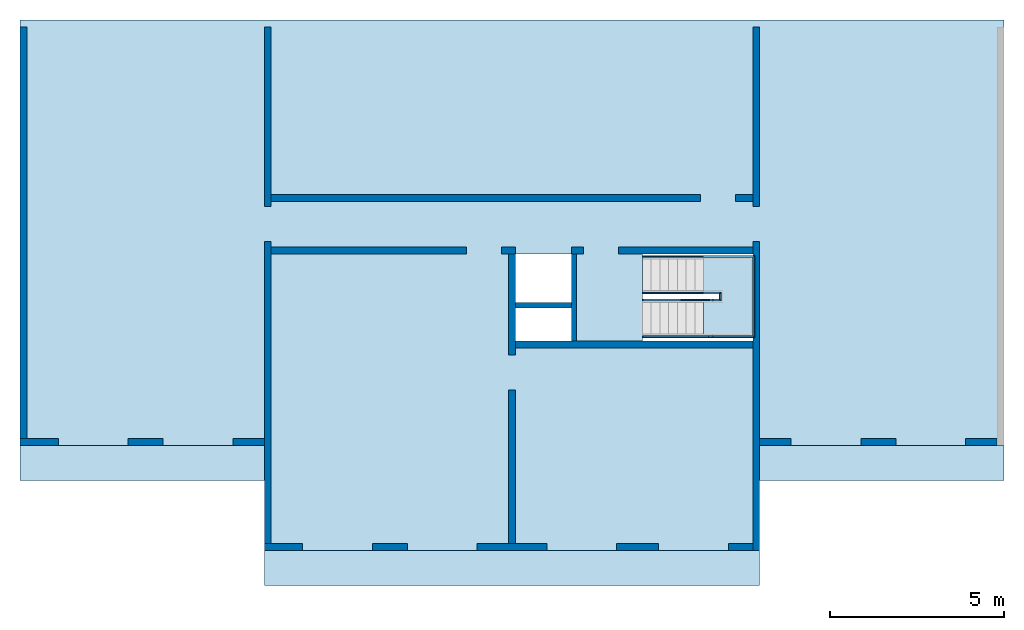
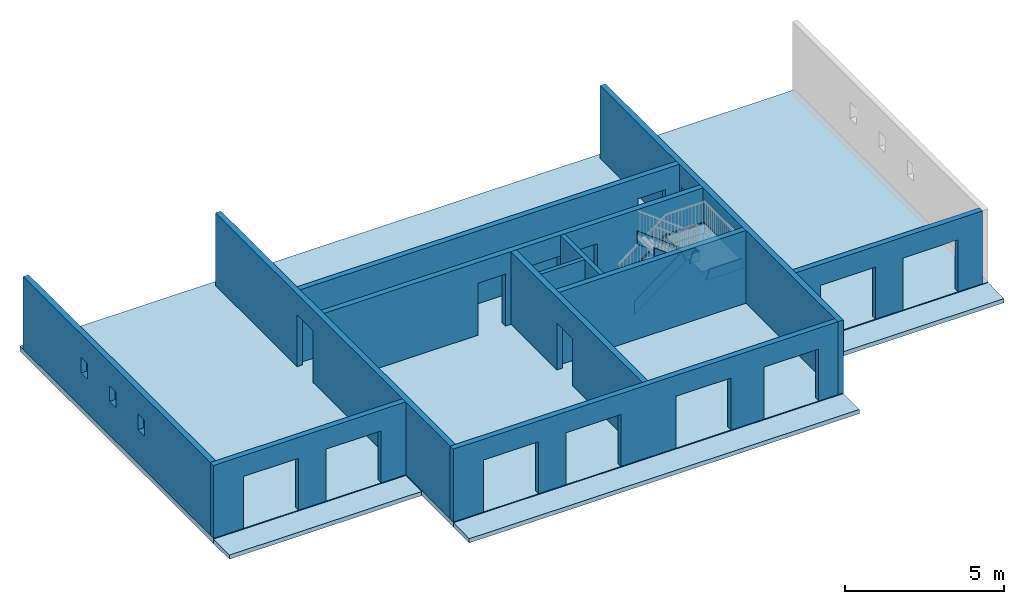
# One storey, part 1 of 3: 12 walls, 10 members, 3 slabs, 21 openings, 1 element without a shape of its own.
"""IFC2X3 building model written with IfcOpenShell, lengths in metres."""

from ifc_helpers import new_model, entity, si_unit, converted_unit, derived_unit, direction, frame, frame_2d, origin, origin_2d_with_axis, place, context, subcontext, project, spatial, polyline, rectangle, outline, extrude, faceted_brep, material, layer, layer_set, layer_usage, type_object, element, aggregate, save


model = new_model("IFC2X3")

# Units and contexts
model_context = context("Model", 3, precision=1e-05, world=origin(), true_north=direction((6.12303176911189e-17, 1.0)))
body_context = subcontext(model_context, "Body", "Model", "MODEL_VIEW")
ifc_project = project(units=[si_unit("LENGTHUNIT", "METRE"), si_unit("AREAUNIT", "SQUARE_METRE"), si_unit("VOLUMEUNIT", "CUBIC_METRE"), converted_unit("PLANEANGLEUNIT", "DEGREE", entity("IfcRatioMeasure", 0.0174532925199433), si_unit("PLANEANGLEUNIT", "RADIAN"), dimensions=[0, 0, 0, 0, 0, 0, 0]), si_unit("MASSUNIT", "GRAM", prefix="KILO"), derived_unit("MASSDENSITYUNIT", [(si_unit("MASSUNIT", "GRAM", prefix="KILO"), 1), (si_unit("LENGTHUNIT", "METRE"), -3)]), si_unit("TIMEUNIT", "SECOND"), si_unit("FREQUENCYUNIT", "HERTZ"), si_unit("THERMODYNAMICTEMPERATUREUNIT", "DEGREE_CELSIUS"), derived_unit("THERMALTRANSMITTANCEUNIT", [(si_unit("MASSUNIT", "GRAM", prefix="KILO"), 1), (si_unit("THERMODYNAMICTEMPERATUREUNIT", "KELVIN"), -1), (si_unit("TIMEUNIT", "SECOND"), -3)]), derived_unit("VOLUMETRICFLOWRATEUNIT", [(si_unit("LENGTHUNIT", "METRE"), 3), (si_unit("TIMEUNIT", "SECOND"), -1)]), si_unit("ELECTRICCURRENTUNIT", "AMPERE"), si_unit("ELECTRICVOLTAGEUNIT", "VOLT"), si_unit("POWERUNIT", "WATT"), si_unit("FORCEUNIT", "NEWTON"), si_unit("ILLUMINANCEUNIT", "LUX"), si_unit("LUMINOUSFLUXUNIT", "LUMEN"), si_unit("LUMINOUSINTENSITYUNIT", "CANDELA"), derived_unit("USERDEFINED", [(si_unit("MASSUNIT", "GRAM", prefix="KILO"), -1), (si_unit("LENGTHUNIT", "METRE"), -2), (si_unit("TIMEUNIT", "SECOND"), 3), (si_unit("LUMINOUSFLUXUNIT", "LUMEN"), 1)]), derived_unit("LINEARVELOCITYUNIT", [(si_unit("LENGTHUNIT", "METRE"), 1), (si_unit("TIMEUNIT", "SECOND"), -1)]), si_unit("PRESSUREUNIT", "PASCAL"), derived_unit("USERDEFINED", [(si_unit("LENGTHUNIT", "METRE"), -2), (si_unit("MASSUNIT", "GRAM", prefix="KILO"), 1), (si_unit("TIMEUNIT", "SECOND"), -2)])], contexts=[model_context])

# Site, building, storey
site_placement = place(None, origin())
site = spatial("IfcSite", under=ifc_project, at=site_placement, Name="Default", CompositionType="ELEMENT")
building_placement = place(site_placement, origin())
building = spatial("IfcBuilding", under=site, at=building_placement, CompositionType="ELEMENT")
storey_placement = place(building_placement, frame((0.0, 0.0, 6.0)))
storey = spatial("IfcBuildingStorey", under=building, at=storey_placement, Name="R+2", CompositionType="ELEMENT", Elevation=5.99999999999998)

# Stair, members
stair_placement = place(storey_placement, origin())
stair = element("IfcStair", 1, at=stair_placement, inside=storey, Name="Escalier assemblé:Escalier", ObjectType="Escalier assemblé:Contremarche 190 mm max marche 250\xa0mm", ShapeType="NOTDEFINED")
member_type = type_object("IfcMemberType", Name="Limon à la française:Limon à la française - 50 mm de largeur", PredefinedType="STRINGER")
member_1_placement = place(stair_placement, origin())
member_1 = element("IfcMember", 2, at=member_1_placement, type_object=member_type, Name="Escalier assemblé:Escalier:468124 Stringer 1", ObjectType="Escalier assemblé:Contremarche 190 mm max marche 250\xa0mm", context=body_context, shape_type="SweptSolid", body=[
    extrude(outline(polyline([(-0.973212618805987, -0.2), (1.19067644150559, -0.2), (1.0569252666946, 0.2), (-1.27438908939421, 0.2), (-0.973212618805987, -0.2)])), frame((6.43043564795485, 2.2618101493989, 0.853112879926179), z_axis=(0.0, 1.0, 0.0), x_axis=(0.798870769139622, 0.0, 0.601502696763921)), (0.0, 0.0, 1.0), 0.05),
])
member_2_placement = place(stair_placement, origin())
member_2 = element("IfcMember", 3, at=member_2_placement, type_object=member_type, Name="Escalier assemblé:Escalier:468124 Stringer 2", ObjectType="Escalier assemblé:Contremarche 190 mm max marche 250\xa0mm", context=body_context, shape_type="SweptSolid", body=[
    extrude(outline(polyline([(-0.973212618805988, -0.2), (1.19067644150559, -0.2), (1.05692526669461, 0.2), (-1.27438908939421, 0.2), (-0.973212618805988, -0.2)])), frame((6.43043564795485, 1.2118101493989, 0.853112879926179), z_axis=(0.0, 1.0, 0.0), x_axis=(0.798870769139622, 0.0, 0.601502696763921)), (0.0, 0.0, 1.0), 0.0500000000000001),
])
member_3_placement = place(stair_placement, origin())
member_3 = element("IfcMember", 4, at=member_3_placement, type_object=member_type, Name="Escalier assemblé:Escalier:468124 Stringer 3", ObjectType="Escalier assemblé:Contremarche 190 mm max marche 250\xa0mm", context=body_context, shape_type="SweptSolid", body=[
    extrude(outline(polyline([(-1.2901377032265, -0.199999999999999), (1.0726738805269, -0.2), (1.37385035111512, 0.200000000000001), (-1.15638652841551, 0.200000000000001), (-1.2901377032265, -0.199999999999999)])), frame((6.50989234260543, -0.0381898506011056, 2.26487758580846), z_axis=(0.0, 1.0, 0.0), x_axis=(-0.798870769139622, 0.0, 0.601502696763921)), (0.0, 0.0, 1.0), 0.05),
])
member_4_placement = place(stair_placement, origin())
member_4 = element("IfcMember", 5, at=member_4_placement, type_object=member_type, Name="Escalier assemblé:Escalier:468124 Stringer 4", ObjectType="Escalier assemblé:Contremarche 190 mm max marche 250\xa0mm", context=body_context, shape_type="SweptSolid", body=[
    extrude(outline(polyline([(-1.2901377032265, -0.2), (1.0726738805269, -0.200000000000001), (1.37385035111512, 0.2), (-1.15638652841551, 0.2), (-1.2901377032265, -0.2)])), frame((6.50989234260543, 1.01181014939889, 2.26487758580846), z_axis=(0.0, 1.0, 0.0), x_axis=(-0.798870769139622, 0.0, 0.601502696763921)), (0.0, 0.0, 1.0), 0.05),
])
member_5_placement = place(stair_placement, frame((7.42024510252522, -0.0381898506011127, 1.32908212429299)))
member_5 = element("IfcMember", 6, at=member_5_placement, type_object=member_type, Name="Escalier assemblé:Escalier:468124 Stringer 5", ObjectType="Escalier assemblé:Contremarche 190 mm max marche 250\xa0mm", context=body_context, shape_type="Brep", body=[
    faceted_brep([(0.133751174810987, 0.0500000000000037, 0.4), (0.133751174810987, 0.0, 0.4), (1.32241889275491, 0.0, 0.4), (1.27241889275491, 0.0500000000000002, 0.4), (0.0, 0.0500000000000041, 0.0), (1.27241889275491, 0.0500000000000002, 0.0), (0.0, 0.0, 0.0), (1.32241889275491, 0.0, 0.0)], [[[0, 1, 2, 3]], [[4, 0, 3, 5]], [[6, 4, 5, 7]], [[1, 6, 7, 2]], [[1, 0, 4, 6]], [[2, 7, 5, 3]]]),
])
member_6_placement = place(stair_placement, origin())
member_6 = element("IfcMember", 7, at=member_6_placement, type_object=member_type, Name="Escalier assemblé:Escalier:468124 Stringer 6", ObjectType="Escalier assemblé:Contremarche 190 mm max marche 250\xa0mm", context=body_context, shape_type="SweptSolid", body=[
    extrude(outline(polyline([(-1.17500000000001, -0.0249999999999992), (1.17500000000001, -0.0249999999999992), (1.125, 0.0250000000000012), (-1.125, 0.0250000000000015), (-1.17500000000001, -0.0249999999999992)])), frame((8.71766399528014, 1.13681014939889, 1.32908212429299), z_axis=(0.0, 0.0, 1.0), x_axis=(0.0, 1.0, 0.0)), (0.0, 0.0, 1.0), 0.4),
])
member_7_placement = place(stair_placement, frame((7.26133171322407, 2.2618101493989, 1.32908212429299)))
member_7 = element("IfcMember", 8, at=member_7_placement, type_object=member_type, Name="Escalier assemblé:Escalier:468124 Stringer 7", ObjectType="Escalier assemblé:Contremarche 190 mm max marche 250\xa0mm", context=body_context, shape_type="Brep", body=[
    faceted_brep([(1.43133228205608, 0.0, 0.4), (1.48133228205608, 0.0499999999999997, 0.4), (0.0, 0.0500000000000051, 0.4), (0.0, 0.0, 0.4), (1.43133228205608, 0.0, 0.0), (0.133751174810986, 0.0, 0.0), (1.48133228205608, 0.0499999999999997, 0.0), (0.133751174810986, 0.0500000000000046, 0.0)], [[[0, 1, 2, 3]], [[4, 0, 3, 5]], [[6, 4, 5, 7]], [[1, 6, 7, 2]], [[1, 0, 4, 6]], [[2, 7, 5, 3]]]),
])
member_8_placement = place(stair_placement, frame((7.26133171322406, 1.2118101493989, 1.32908212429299)))
member_8 = element("IfcMember", 9, at=member_8_placement, type_object=member_type, Name="Escalier assemblé:Escalier:468124 Stringer 8", ObjectType="Escalier assemblé:Contremarche 190 mm max marche 250\xa0mm", context=body_context, shape_type="Brep", body=[
    faceted_brep([(0.0, 0.0500000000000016, 0.4), (0.0, 0.0, 0.4), (0.471332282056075, 0.0, 0.4), (0.521332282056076, 0.0499999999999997, 0.4), (0.133751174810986, 0.0500000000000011, 0.0), (0.521332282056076, 0.0499999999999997, 0.0), (0.133751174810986, 0.0, 0.0), (0.471332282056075, 0.0, 0.0)], [[[0, 1, 2, 3]], [[4, 0, 3, 5]], [[6, 4, 5, 7]], [[1, 6, 7, 2]], [[1, 0, 4, 6]], [[2, 7, 5, 3]]]),
])
member_9_placement = place(stair_placement, origin())
member_9 = element("IfcMember", 10, at=member_9_placement, type_object=member_type, Name="Escalier assemblé:Escalier:468124 Stringer 9", ObjectType="Escalier assemblé:Contremarche 190 mm max marche 250\xa0mm", context=body_context, shape_type="SweptSolid", body=[
    extrude(outline(polyline([(-0.0750000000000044, -0.0250000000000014), (0.0750000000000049, -0.0250000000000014), (0.125000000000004, 0.0249999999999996), (-0.125000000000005, 0.0249999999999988), (-0.0750000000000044, -0.0250000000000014)])), frame((7.75766399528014, 1.13681014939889, 1.32908212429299), z_axis=(0.0, 0.0, 1.0), x_axis=(0.0, -1.0, 0.0)), (0.0, 0.0, 1.0), 0.4),
])
member_10_placement = place(stair_placement, frame((7.42024510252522, 1.01181014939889, 1.32908212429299)))
member_10 = element("IfcMember", 11, at=member_10_placement, type_object=member_type, Name="Escalier assemblé:Escalier:468124 Stringer 10", ObjectType="Escalier assemblé:Contremarche 190 mm max marche 250\xa0mm", context=body_context, shape_type="Brep", body=[
    faceted_brep([(0.362418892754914, 0.0, 0.4), (0.312418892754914, 0.0500000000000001, 0.4), (0.133751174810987, 0.0500000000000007, 0.4), (0.133751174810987, 0.0, 0.4), (0.362418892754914, 0.0, 0.0), (0.0, 0.0, 0.0), (0.312418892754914, 0.0500000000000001, 0.0), (0.0, 0.0500000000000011, 0.0)], [[[0, 1, 2, 3]], [[4, 0, 3, 5]], [[6, 4, 5, 7]], [[1, 6, 7, 2]], [[1, 0, 4, 6]], [[2, 7, 5, 3]]]),
])

# Slab, openings
ifc_material_1 = material(Name="Béton - Coulé sur place - Béton20")
ifc_layer_1 = layer(ifc_material_1, 0.2)
ifc_layer_set_1 = layer_set([ifc_layer_1], Name="Sol:Dalle pleine 200 mm")
ifc_layer_usage_1 = layer_usage(ifc_layer_set_1, "AXIS3", "POSITIVE", 0.0)
slab_1_placement = place(storey_placement, frame((-12.3073360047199, -6.13818985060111, 0.0)))
slab_1 = element("IfcSlab", 12, at=slab_1_placement, inside=storey, material=ifc_layer_usage_1, Name="Sol:Dalle pleine 200 mm", ObjectType="Sol:Dalle pleine 200 mm", PredefinedType="FLOOR", context=body_context, shape_type="SweptSolid", body=[
    extrude(outline(polyline([(-14.1, 7.59999999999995), (-14.1, -4.60000000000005), (-7.1, -4.60000000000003), (-7.09999999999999, -7.60000000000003), (7.10000000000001, -7.59999999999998), (7.10000000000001, -4.59999999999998), (14.1, -4.59999999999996), (14.1, 7.60000000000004), (-14.1, 7.59999999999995)])), frame((14.1, 7.60000000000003, 0.2), z_axis=(0.0, 0.0, -1.0), x_axis=(-1.0, 0.0, 0.0)), (0.0, 0.0, 1.0), 0.2),
])
opening_1_placement = place(slab_1_placement, frame((15.0, 7.80000000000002, 0.2)))
element("IfcOpeningElement", 13, at=opening_1_placement, cuts=slab_1, Name="Sol:Dalle pleine 200 mm:2", ObjectType="Opening", context=body_context, shape_type="SweptSolid", body=[
    extrude(rectangle(XDim=1.4, YDim=1.6, at=origin_2d_with_axis()), frame((0.0, 0.0, 0.0), z_axis=(0.0, 0.0, -1.0), x_axis=(0.0, -1.0, 0.0)), (0.0, 0.0, 1.0), 0.2),
])
opening_2_placement = place(slab_1_placement, frame((15.0, 6.47500000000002, 0.2)))
element("IfcOpeningElement", 14, at=opening_2_placement, cuts=slab_1, Name="Sol:Dalle pleine 200 mm:3", ObjectType="Opening", context=body_context, shape_type="SweptSolid", body=[
    extrude(rectangle(XDim=0.95, YDim=1.6, at=origin_2d_with_axis()), frame((0.0, 0.0, 0.0), z_axis=(0.0, 0.0, -1.0), x_axis=(0.0, -1.0, 0.0)), (0.0, 0.0, 1.0), 0.2),
])
opening_3_placement = place(slab_1_placement, frame((19.42, 7.25, 0.2)))
element("IfcOpeningElement", 15, at=opening_3_placement, cuts=slab_1, Name="Sol:Dalle pleine 200 mm:4", ObjectType="Opening", context=body_context, shape_type="SweptSolid", body=[
    extrude(rectangle(XDim=3.16, YDim=2.49999999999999, at=origin_2d_with_axis()), frame((0.0, 0.0, 0.0), z_axis=(0.0, 0.0, -1.0), x_axis=(1.0, 0.0, 0.0)), (0.0, 0.0, 1.0), 0.2),
])

# Slab
ifc_layer_2 = layer(ifc_material_1, 0.16)
ifc_layer_set_2 = layer_set([ifc_layer_2], Name="Sol:Balcon 160 mm")
ifc_layer_usage_2 = layer_usage(ifc_layer_set_2, "AXIS3", "POSITIVE", 0.0)
slab_2_placement = place(storey_placement, origin())
element("IfcSlab", 16, at=slab_2_placement, inside=storey, material=ifc_layer_usage_2, Name="Sol:Balcon 160 mm", ObjectType="Sol:Balcon 160 mm", PredefinedType="FLOOR", context=body_context, shape_type="SweptSolid", body=[
    extrude(outline(polyline([(-0.0825000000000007, -0.5), (0.0874999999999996, -0.5), (0.0774999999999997, 0.5), (-0.0825000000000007, 0.5), (-0.0825000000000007, -0.5)])), frame((8.89266399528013, -3.63818985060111, 0.0825000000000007), z_axis=(1.0, 0.0, 0.0), x_axis=(0.0, 0.0, 1.0)), (0.0, 0.0, 1.0), 7.0),
    extrude(outline(polyline([(-0.0825000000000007, -0.5), (0.0874999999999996, -0.5), (0.0774999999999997, 0.5), (-0.0825000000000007, 0.5), (-0.0825000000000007, -0.5)])), frame((-12.3073360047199, -3.63818985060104, 0.0825000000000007), z_axis=(1.0, 0.0, 0.0), x_axis=(0.0, 0.0, 1.0)), (0.0, 0.0, 1.0), 7.0),
    extrude(outline(polyline([(-0.0825000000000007, -0.5), (0.0874999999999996, -0.5), (0.0774999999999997, 0.5), (-0.0825000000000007, 0.5), (-0.0825000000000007, -0.5)])), frame((-5.30733600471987, -6.63818985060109, 0.0825000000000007), z_axis=(1.0, 0.0, 0.0), x_axis=(0.0, 0.0, 1.0)), (0.0, 0.0, 1.0), 14.2),
])

slab_3_placement = place(stair_placement, origin())
slab_3 = element("IfcSlab", 17, at=slab_3_placement, Name="Escalier assemblé:Escalier:468124 Landing 1", ObjectType="Escalier assemblé:Contremarche 190 mm max marche 250\xa0mm", PredefinedType="LANDING", context=body_context, shape_type="SweptSolid", body=[
    extrude(outline(polyline([(-1.125, -0.477500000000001), (-0.125000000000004, -0.477500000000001), (-0.125000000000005, 0.0225000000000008), (0.125000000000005, 0.0225000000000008), (0.125000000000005, -0.477499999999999), (1.12500000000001, -0.477499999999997), (1.125, 0.932500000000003), (-1.12500000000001, 0.932500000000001), (-1.125, -0.477500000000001)])), frame((7.76016399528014, 1.1368101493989, 1.63235294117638), z_axis=(0.0, 0.0, 1.0), x_axis=(0.0, -1.0, 0.0)), (0.0, 0.0, 1.0), 0.0499999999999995),
])

aggregate(stair, [slab_3, member_1, member_2, member_3, member_4, member_5, member_6, member_7, member_8, member_9, member_10])

# Wall, openings
ifc_layer_3 = layer(ifc_material_1, 0.2)
ifc_layer_set_3 = layer_set([ifc_layer_3], Name="Mur de base:Générique - 200 mm")
ifc_layer_usage_3 = layer_usage(ifc_layer_set_3, "AXIS2", "NEGATIVE", 0.1)
wall_type_1 = type_object("IfcWallType", Name="Mur de base:Générique - 200 mm", PredefinedType="STANDARD", material=ifc_layer_set_3)
wall_1_placement = place(storey_placement, frame((15.6926639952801, -3.03818985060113, 0.200000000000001), z_axis=(0.0, 0.0, 1.0), x_axis=(-1.0, 0.0, 0.0)))
wall_1 = element("IfcWallStandardCase", 18, at=wall_1_placement, inside=storey, type_object=wall_type_1, material=ifc_layer_usage_3, Name="Mur de base:Générique - 200 mm", ObjectType="Mur de base:Générique - 200 mm:1044", context=body_context, shape_type="SweptSolid", body=[
    extrude(rectangle(XDim=6.8, YDim=0.2, at=frame_2d((3.4, 2.22044604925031e-16), x_axis=(-1.0, 0.0))), origin(), (0.0, 0.0, 1.0), 2.80000000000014),
])
opening_4_placement = place(wall_1_placement, frame((15.6926639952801, -3.03818985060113, -0.200000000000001), z_axis=(0.0, 0.0, 1.0), x_axis=(-1.0, 0.0, 0.0)))
element("IfcOpeningElement", 19, at=opening_4_placement, cuts=wall_1, Name="Mur de base:Générique - 200 mm", ObjectType="Opening", context=body_context, shape_type="SweptSolid", body=[
    extrude(rectangle(XDim=2.0, YDim=2.0, at=frame_2d((0.0, 0.0), x_axis=(0.0, 1.0))), frame((10.7926639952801, -1.41418985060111, 1.2), z_axis=(0.0, -1.0, 0.0), x_axis=(-1.0, 0.0, 0.0)), (0.0, 0.0, 1.0), 3.048),
])
opening_5_placement = place(wall_1_placement, frame((15.6926639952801, -3.03818985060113, -0.200000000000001), z_axis=(0.0, 0.0, 1.0), x_axis=(-1.0, 0.0, 0.0)))
element("IfcOpeningElement", 20, at=opening_5_placement, cuts=wall_1, Name="Mur de base:Générique - 200 mm", ObjectType="Opening", context=body_context, shape_type="SweptSolid", body=[
    extrude(rectangle(XDim=2.0, YDim=2.0, at=frame_2d((0.0, 0.0), x_axis=(0.0, 1.0))), frame((13.7926639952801, -1.41418985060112, 1.2), z_axis=(0.0, -1.0, 0.0), x_axis=(-1.0, 0.0, 0.0)), (0.0, 0.0, 1.0), 3.048),
])

# Wall, opening
ifc_layer_usage_4 = layer_usage(ifc_layer_set_3, "AXIS2", "NEGATIVE", 0.1)
wall_2_placement = place(storey_placement, frame((8.79266399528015, 8.86181014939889, 0.200000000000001), z_axis=(0.0, 0.0, 1.0), x_axis=(0.0, -1.0, 0.0)))
wall_2 = element("IfcWallStandardCase", 21, at=wall_2_placement, inside=storey, type_object=wall_type_1, material=ifc_layer_usage_4, Name="Mur de base:Générique - 200 mm", ObjectType="Mur de base:Générique - 200 mm:1044", context=body_context, shape_type="SweptSolid", body=[
    extrude(rectangle(XDim=15.0, YDim=0.2, at=frame_2d((7.5, 0.0), x_axis=(-1.0, 0.0))), origin(), (0.0, 0.0, 1.0), 2.80000000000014),
])
opening_6_placement = place(wall_2_placement, frame((8.86181014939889, -8.79266399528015, -0.200000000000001), z_axis=(0.0, 0.0, 1.0), x_axis=(0.0, 1.0, 0.0)))
element("IfcOpeningElement", 22, at=opening_6_placement, cuts=wall_2, Name="Mur de base:Générique - 200 mm", ObjectType="Opening", context=body_context, shape_type="SweptSolid", body=[
    extrude(rectangle(XDim=2.0, YDim=1.0, at=frame_2d((-2.4980018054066e-16, 0.0), x_axis=(0.0, 1.0))), frame((7.16866399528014, 3.2118101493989, 1.2), z_axis=(1.0, 0.0, 0.0), x_axis=(0.0, -1.0, 0.0)), (0.0, 0.0, 1.0), 3.048),
])

# Wall, openings
ifc_layer_usage_5 = layer_usage(ifc_layer_set_3, "AXIS2", "NEGATIVE", 0.1)
wall_3_placement = place(storey_placement, frame((8.69266399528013, -6.03818985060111, 0.200000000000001), z_axis=(0.0, 0.0, 1.0), x_axis=(-1.0, 0.0, 0.0)))
wall_3 = element("IfcWallStandardCase", 23, at=wall_3_placement, inside=storey, type_object=wall_type_1, material=ifc_layer_usage_5, Name="Mur de base:Générique - 200 mm", ObjectType="Mur de base:Générique - 200 mm:1044", context=body_context, shape_type="SweptSolid", body=[
    extrude(rectangle(XDim=14.0, YDim=0.2, at=frame_2d((7.0, 0.0), x_axis=(-1.0, 0.0))), origin(), (0.0, 0.0, 1.0), 2.80000000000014),
])
opening_7_placement = place(wall_3_placement, frame((8.69266399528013, -6.03818985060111, -0.200000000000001), z_axis=(0.0, 0.0, 1.0), x_axis=(-1.0, 0.0, 0.0)))
element("IfcOpeningElement", 24, at=opening_7_placement, cuts=wall_3, Name="Mur de base:Générique - 200 mm", ObjectType="Opening", context=body_context, shape_type="SweptSolid", body=[
    extrude(rectangle(XDim=2.0, YDim=2.0, at=frame_2d((0.0, 1.11022302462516e-16), x_axis=(1.0, 0.0))), frame((-3.20733600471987, -4.61418985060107, 1.2), z_axis=(0.0, -1.0, 0.0), x_axis=(0.0, 0.0, -1.0)), (0.0, 0.0, 1.0), 3.048),
])
opening_8_placement = place(wall_3_placement, frame((8.69266399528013, -6.03818985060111, -0.200000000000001), z_axis=(0.0, 0.0, 1.0), x_axis=(-1.0, 0.0, 0.0)))
element("IfcOpeningElement", 25, at=opening_8_placement, cuts=wall_3, Name="Mur de base:Générique - 200 mm", ObjectType="Opening", context=body_context, shape_type="SweptSolid", body=[
    extrude(rectangle(XDim=2.0, YDim=2.0, at=origin_2d_with_axis()), frame((-0.207336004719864, -4.61418985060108, 1.2), z_axis=(0.0, -1.0, 0.0), x_axis=(0.0, 0.0, -1.0)), (0.0, 0.0, 1.0), 3.048),
])
opening_9_placement = place(wall_3_placement, frame((8.69266399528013, -6.03818985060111, -0.200000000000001), z_axis=(0.0, 0.0, 1.0), x_axis=(-1.0, 0.0, 0.0)))
element("IfcOpeningElement", 26, at=opening_9_placement, cuts=wall_3, Name="Mur de base:Générique - 200 mm", ObjectType="Opening", context=body_context, shape_type="SweptSolid", body=[
    extrude(rectangle(XDim=2.0, YDim=2.0, at=frame_2d((0.0, 2.22044604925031e-16), x_axis=(1.0, 0.0))), frame((3.79266399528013, -4.61418985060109, 1.2), z_axis=(0.0, -1.0, 0.0), x_axis=(0.0, 0.0, -1.0)), (0.0, 0.0, 1.0), 3.048),
])
opening_10_placement = place(wall_3_placement, frame((8.69266399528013, -6.03818985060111, -0.200000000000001), z_axis=(0.0, 0.0, 1.0), x_axis=(-1.0, 0.0, 0.0)))
element("IfcOpeningElement", 27, at=opening_10_placement, cuts=wall_3, Name="Mur de base:Générique - 200 mm", ObjectType="Opening", context=body_context, shape_type="SweptSolid", body=[
    extrude(rectangle(XDim=2.0, YDim=2.0, at=origin_2d_with_axis()), frame((6.99266399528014, -4.6141898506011, 1.2), z_axis=(0.0, -1.0, 0.0), x_axis=(0.0, 0.0, -1.0)), (0.0, 0.0, 1.0), 3.048),
])

# Wall, opening
ifc_layer_usage_6 = layer_usage(ifc_layer_set_3, "AXIS2", "NEGATIVE", 0.1)
wall_4_placement = place(storey_placement, frame((-5.20733600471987, -5.93818985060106, 0.200000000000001), z_axis=(0.0, 0.0, 1.0), x_axis=(0.0, 1.0, 0.0)))
wall_4 = element("IfcWallStandardCase", 28, at=wall_4_placement, inside=storey, type_object=wall_type_1, material=ifc_layer_usage_6, Name="Mur de base:Générique - 200 mm", ObjectType="Mur de base:Générique - 200 mm:1044", context=body_context, shape_type="SweptSolid", body=[
    extrude(rectangle(XDim=14.8, YDim=0.2, at=frame_2d((7.4, -1.66533453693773e-16), x_axis=(-1.0, 0.0))), origin(), (0.0, 0.0, 1.0), 2.80000000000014),
])
opening_11_placement = place(wall_4_placement, frame((5.93818985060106, -5.20733600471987, -0.200000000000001), z_axis=(0.0, 0.0, 1.0), x_axis=(0.0, -1.0, 0.0)))
element("IfcOpeningElement", 29, at=opening_11_placement, cuts=wall_4, Name="Mur de base:Générique - 200 mm", ObjectType="Opening", context=body_context, shape_type="SweptSolid", body=[
    extrude(rectangle(XDim=2.0, YDim=1.0, at=frame_2d((0.0, -2.4980018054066e-16), x_axis=(1.0, 0.0))), frame((-3.78333600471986, 3.21181014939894, 1.2), z_axis=(-1.0, 0.0, 0.0), x_axis=(0.0, 0.0, -1.0)), (0.0, 0.0, 1.0), 3.048),
])

# Wall, openings
ifc_layer_usage_7 = layer_usage(ifc_layer_set_3, "AXIS2", "NEGATIVE", 0.1)
wall_5_placement = place(storey_placement, frame((-5.30733600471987, -3.03818985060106, 0.200000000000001), z_axis=(0.0, 0.0, 1.0), x_axis=(-1.0, 0.0, 0.0)))
wall_5 = element("IfcWallStandardCase", 30, at=wall_5_placement, inside=storey, type_object=wall_type_1, material=ifc_layer_usage_7, Name="Mur de base:Générique - 200 mm", ObjectType="Mur de base:Générique - 200 mm:1044", context=body_context, shape_type="SweptSolid", body=[
    extrude(rectangle(XDim=7.0, YDim=0.2, at=frame_2d((3.5, 0.0), x_axis=(-1.0, 0.0))), origin(), (0.0, 0.0, 1.0), 2.80000000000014),
])
opening_12_placement = place(wall_5_placement, frame((-5.30733600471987, -3.03818985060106, -0.200000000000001), z_axis=(0.0, 0.0, 1.0), x_axis=(-1.0, 0.0, 0.0)))
element("IfcOpeningElement", 31, at=opening_12_placement, cuts=wall_5, Name="Mur de base:Générique - 200 mm", ObjectType="Opening", context=body_context, shape_type="SweptSolid", body=[
    extrude(rectangle(XDim=2.0, YDim=2.0, at=frame_2d((1.0547118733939e-15, 0.0), x_axis=(0.0, 1.0))), frame((-10.2073360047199, -1.41418985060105, 1.2), z_axis=(0.0, -1.0, 0.0), x_axis=(-1.0, 0.0, 0.0)), (0.0, 0.0, 1.0), 3.048),
])
opening_13_placement = place(wall_5_placement, frame((-5.30733600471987, -3.03818985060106, -0.200000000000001), z_axis=(0.0, 0.0, 1.0), x_axis=(-1.0, 0.0, 0.0)))
element("IfcOpeningElement", 32, at=opening_13_placement, cuts=wall_5, Name="Mur de base:Générique - 200 mm", ObjectType="Opening", context=body_context, shape_type="SweptSolid", body=[
    extrude(rectangle(XDim=2.0, YDim=2.0, at=frame_2d((-4.9960036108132e-16, 0.0), x_axis=(0.0, 1.0))), frame((-7.20733600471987, -1.41418985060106, 1.2), z_axis=(0.0, -1.0, 0.0), x_axis=(-1.0, 0.0, 0.0)), (0.0, 0.0, 1.0), 3.048),
])

ifc_layer_usage_8 = layer_usage(ifc_layer_set_3, "AXIS2", "NEGATIVE", 0.1)
wall_6_placement = place(storey_placement, frame((-12.2073360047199, -2.93818985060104, 0.200000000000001), z_axis=(0.0, 0.0, 1.0), x_axis=(0.0, 1.0, 0.0)))
wall_6 = element("IfcWallStandardCase", 33, at=wall_6_placement, inside=storey, type_object=wall_type_1, material=ifc_layer_usage_8, Name="Mur de base:Générique - 200 mm", ObjectType="Mur de base:Générique - 200 mm:1044", context=body_context, shape_type="SweptSolid", body=[
    extrude(rectangle(XDim=11.8, YDim=0.199999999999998, at=frame_2d((5.9, -1.59594559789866e-16), x_axis=(-1.0, 0.0))), origin(), (0.0, 0.0, 1.0), 2.80000000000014),
])
opening_14_placement = place(wall_6_placement, frame((2.93818985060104, -12.2073360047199, -0.200000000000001), z_axis=(0.0, 0.0, 1.0), x_axis=(0.0, -1.0, 0.0)))
element("IfcOpeningElement", 34, at=opening_14_placement, cuts=wall_6, Name="Mur de base:Générique - 200 mm", ObjectType="Opening", context=body_context, shape_type="SweptSolid", body=[
    extrude(rectangle(XDim=0.6, YDim=0.4, at=origin_2d_with_axis()), frame((-10.7833360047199, 3.21181014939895, 1.8), z_axis=(-1.0, 0.0, 0.0), x_axis=(0.0, 0.0, -1.0)), (0.0, 0.0, 1.0), 3.048),
])
opening_15_placement = place(wall_6_placement, frame((2.93818985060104, -12.2073360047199, -0.200000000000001), z_axis=(0.0, 0.0, 1.0), x_axis=(0.0, -1.0, 0.0)))
element("IfcOpeningElement", 35, at=opening_15_placement, cuts=wall_6, Name="Mur de base:Générique - 200 mm", ObjectType="Opening", context=body_context, shape_type="SweptSolid", body=[
    extrude(rectangle(XDim=0.6, YDim=0.400000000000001, at=frame_2d((0.0, 2.77555756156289e-16), x_axis=(1.0, 0.0))), frame((-10.7833360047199, 5.01181014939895, 1.8), z_axis=(-1.0, 0.0, 0.0), x_axis=(0.0, 0.0, -1.0)), (0.0, 0.0, 1.0), 3.048),
])
opening_16_placement = place(wall_6_placement, frame((2.93818985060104, -12.2073360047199, -0.200000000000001), z_axis=(0.0, 0.0, 1.0), x_axis=(0.0, -1.0, 0.0)))
element("IfcOpeningElement", 36, at=opening_16_placement, cuts=wall_6, Name="Mur de base:Générique - 200 mm", ObjectType="Opening", context=body_context, shape_type="SweptSolid", body=[
    extrude(rectangle(XDim=0.6, YDim=0.4, at=frame_2d((0.0, -6.93889390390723e-17), x_axis=(1.0, 0.0))), frame((-10.7833360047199, 1.41181014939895, 1.8), z_axis=(-1.0, 0.0, 0.0), x_axis=(0.0, 0.0, -1.0)), (0.0, 0.0, 1.0), 3.048),
])

# Wall, opening
ifc_layer_usage_9 = layer_usage(ifc_layer_set_3, "AXIS2", "NEGATIVE", 0.1)
wall_7_placement = place(storey_placement, frame((-5.10733600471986, 3.96181014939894, 0.200000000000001)))
wall_7 = element("IfcWallStandardCase", 37, at=wall_7_placement, inside=storey, type_object=wall_type_1, material=ifc_layer_usage_9, Name="Mur de base:Générique - 200 mm", ObjectType="Mur de base:Générique - 200 mm:1044", context=body_context, shape_type="SweptSolid", body=[
    extrude(rectangle(XDim=13.8, YDim=0.2, at=frame_2d((6.9, 2.22044604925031e-16), x_axis=(-1.0, 0.0))), origin(), (0.0, 0.0, 1.0), 2.80000000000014),
])
opening_17_placement = place(wall_7_placement, frame((5.10733600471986, -3.96181014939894, -0.200000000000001)))
element("IfcOpeningElement", 38, at=opening_17_placement, cuts=wall_7, Name="Mur de base:Générique - 200 mm", ObjectType="Opening", context=body_context, shape_type="SweptSolid", body=[
    extrude(rectangle(XDim=2.0, YDim=1.0, at=frame_2d((0.0, 1.08246744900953e-15), x_axis=(1.0, 0.0))), frame((7.69266399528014, 2.5378101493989, 1.2), z_axis=(0.0, 1.0, 0.0), x_axis=(0.0, 0.0, -1.0)), (0.0, 0.0, 1.0), 3.048),
])

# Wall, openings
ifc_layer_usage_10 = layer_usage(ifc_layer_set_3, "AXIS2", "NEGATIVE", 0.1)
wall_8_placement = place(storey_placement, frame((8.69266399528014, 2.46181014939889, 0.200000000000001), z_axis=(0.0, 0.0, 1.0), x_axis=(-1.0, 0.0, 0.0)))
wall_8 = element("IfcWallStandardCase", 39, at=wall_8_placement, inside=storey, type_object=wall_type_1, material=ifc_layer_usage_10, Name="Mur de base:Générique - 200 mm", ObjectType="Mur de base:Générique - 200 mm:1044", context=body_context, shape_type="SweptSolid", body=[
    extrude(rectangle(XDim=13.8, YDim=0.2, at=frame_2d((6.9, 8.32667268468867e-17), x_axis=(-1.0, 0.0))), origin(), (0.0, 0.0, 1.0), 2.80000000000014),
])
opening_18_placement = place(wall_8_placement, frame((8.69266399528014, 2.46181014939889, -0.200000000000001), z_axis=(0.0, 0.0, 1.0), x_axis=(-1.0, 0.0, 0.0)))
element("IfcOpeningElement", 40, at=opening_18_placement, cuts=wall_8, Name="Mur de base:Générique - 200 mm", ObjectType="Opening", context=body_context, shape_type="SweptSolid", body=[
    extrude(rectangle(XDim=2.0, YDim=1.0, at=frame_2d((0.0, 0.0), x_axis=(0.0, 1.0))), frame((0.992663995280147, 4.08581014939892, 1.2), z_axis=(0.0, -1.0, 0.0), x_axis=(-1.0, 0.0, 0.0)), (0.0, 0.0, 1.0), 3.048),
])
opening_19_placement = place(wall_8_placement, frame((8.69266399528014, 2.46181014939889, -0.200000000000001), z_axis=(0.0, 0.0, 1.0), x_axis=(-1.0, 0.0, 0.0)))
element("IfcOpeningElement", 41, at=opening_19_placement, cuts=wall_8, Name="Mur de base:Générique - 200 mm", ObjectType="Opening", context=body_context, shape_type="SweptSolid", body=[
    extrude(rectangle(XDim=2.0, YDim=1.0, at=frame_2d((0.0, 2.4980018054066e-16), x_axis=(1.0, 0.0))), frame((4.34266399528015, 3.88581014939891, 1.2), z_axis=(0.0, -1.0, 0.0), x_axis=(0.0, 0.0, -1.0)), (0.0, 0.0, 1.0), 3.048),
])
opening_20_placement = place(wall_8_placement, frame((8.69266399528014, 2.46181014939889, -0.200000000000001), z_axis=(0.0, 0.0, 1.0), x_axis=(-1.0, 0.0, 0.0)))
element("IfcOpeningElement", 42, at=opening_20_placement, cuts=wall_8, Name="Mur de base:Générique - 200 mm", ObjectType="Opening", context=body_context, shape_type="SweptSolid", body=[
    extrude(rectangle(XDim=2.0, YDim=1.6, at=frame_2d((0.0, 1.11022302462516e-16), x_axis=(1.0, 0.0))), frame((2.69266399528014, 3.88581014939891, 1.2), z_axis=(0.0, -1.0, 0.0), x_axis=(0.0, 0.0, -1.0)), (0.0, 0.0, 1.0), 3.048),
])

# Wall, opening
ifc_layer_usage_11 = layer_usage(ifc_layer_set_3, "AXIS2", "NEGATIVE", 0.1)
wall_9_placement = place(storey_placement, frame((1.79266399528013, -5.93818985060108, 0.200000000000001), z_axis=(0.0, 0.0, 1.0), x_axis=(0.0, 1.0, 0.0)))
wall_9 = element("IfcWallStandardCase", 43, at=wall_9_placement, inside=storey, type_object=wall_type_1, material=ifc_layer_usage_11, Name="Mur de base:Générique - 200 mm", ObjectType="Mur de base:Générique - 200 mm:1044", context=body_context, shape_type="SweptSolid", body=[
    extrude(rectangle(XDim=8.3, YDim=0.2, at=frame_2d((4.15, 1.11022302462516e-16), x_axis=(-1.0, 0.0))), origin(), (0.0, 0.0, 1.0), 2.80000000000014),
])
opening_21_placement = place(wall_9_placement, frame((5.93818985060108, 1.79266399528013, -0.200000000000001), z_axis=(0.0, 0.0, 1.0), x_axis=(0.0, -1.0, 0.0)))
element("IfcOpeningElement", 44, at=opening_21_placement, cuts=wall_9, Name="Mur de base:Générique - 200 mm", ObjectType="Opening", context=body_context, shape_type="SweptSolid", body=[
    extrude(rectangle(XDim=2.0, YDim=1.0, at=frame_2d((0.0, 0.0), x_axis=(0.0, 1.0))), frame((3.41666399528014, -1.03818985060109, 1.0), z_axis=(-1.0, 0.0, 0.0), x_axis=(0.0, 1.0, 0.0)), (0.0, 0.0, 1.0), 3.048),
])

# Walls
ifc_layer_usage_12 = layer_usage(ifc_layer_set_3, "AXIS2", "NEGATIVE", 0.1)
wall_10_placement = place(storey_placement, frame((1.89266399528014, -0.238189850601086, 0.200000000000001)))
element("IfcWallStandardCase", 45, at=wall_10_placement, inside=storey, type_object=wall_type_1, material=ifc_layer_usage_12, Name="Mur de base:Générique - 200 mm", ObjectType="Mur de base:Générique - 200 mm:1044", context=body_context, shape_type="SweptSolid", body=[
    extrude(rectangle(XDim=6.8, YDim=0.2, at=frame_2d((3.4, 2.08166817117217e-17), x_axis=(-1.0, 0.0))), origin(), (0.0, 0.0, 1.0), 2.80000000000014),
])
ifc_material_2 = material(Name="Blocs béton manufacturés")
ifc_layer_4 = layer(ifc_material_2, 0.15)
ifc_layer_set_4 = layer_set([ifc_layer_4], Name="Mur de base:Générique - 150 mm")
ifc_layer_usage_13 = layer_usage(ifc_layer_set_4, "AXIS2", "NEGATIVE", 0.075)
wall_type_2 = type_object("IfcWallType", Name="Mur de base:Générique - 150 mm", PredefinedType="STANDARD", material=ifc_layer_set_4)
wall_11_placement = place(storey_placement, frame((3.56766399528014, 2.36181014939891, 0.200000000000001), z_axis=(0.0, 0.0, 1.0), x_axis=(0.0, -1.0, 0.0)))
element("IfcWallStandardCase", 46, at=wall_11_placement, inside=storey, type_object=wall_type_2, material=ifc_layer_usage_13, Name="Mur de base:Générique - 150 mm", ObjectType="Mur de base:Générique - 150 mm", context=body_context, shape_type="SweptSolid", body=[
    extrude(rectangle(XDim=2.5, YDim=0.149999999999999, at=frame_2d((1.25, -1.59594559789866e-16), x_axis=(-1.0, 0.0))), origin(), (0.0, 0.0, 1.0), 2.80000000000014),
])
ifc_layer_usage_14 = layer_usage(ifc_layer_set_4, "AXIS2", "NEGATIVE", 0.075)
wall_12_placement = place(storey_placement, frame((1.89266399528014, 0.886810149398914, 0.0)))
element("IfcWallStandardCase", 47, at=wall_12_placement, inside=storey, type_object=wall_type_2, material=ifc_layer_usage_14, Name="Mur de base:Générique - 150 mm", ObjectType="Mur de base:Générique - 150 mm", context=body_context, shape_type="SweptSolid", body=[
    extrude(rectangle(XDim=1.6, YDim=0.15, at=frame_2d((0.8, -3.46944695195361e-17), x_axis=(-1.0, 0.0))), origin(), (0.0, 0.0, 1.0), 3.00000000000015),
])

save(model, "model.ifc")
